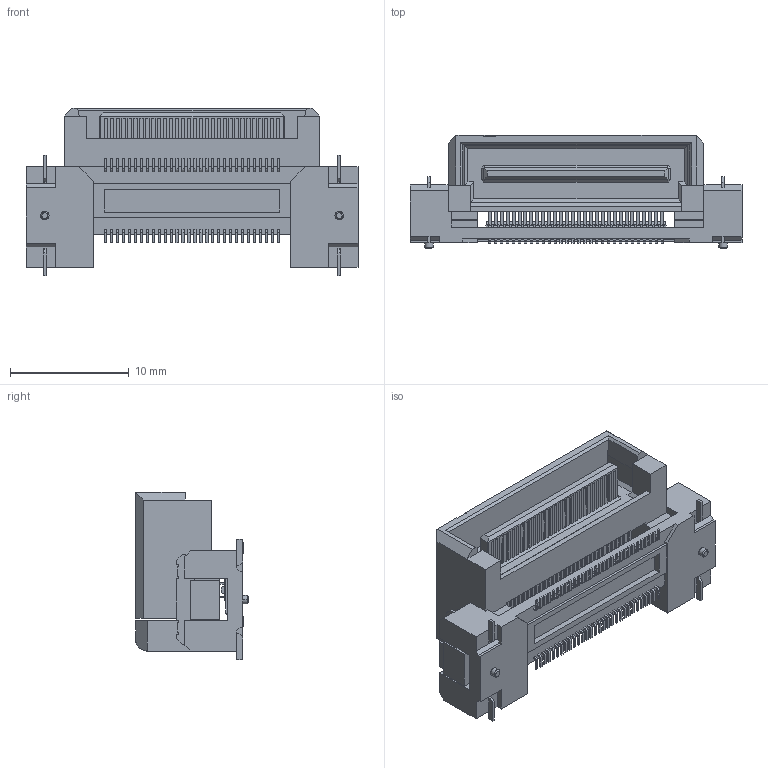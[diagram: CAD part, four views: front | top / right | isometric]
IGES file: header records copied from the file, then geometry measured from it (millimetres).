
Start section: Elysium IGES Interface
Global section: file name: 69HC:\Users\1314\Desktop\temp\回覧用-一時的\DTXX\60\P3D045_DT01-060L.igs; native system: Creo Elements/Direct Modeling 19.0F  14-Feb-2017; preprocessor: Creo Element/Direct IGES_3D V2.2; author: Unknown; organization: Unknown; date: 20170718.112558; units: millimetre
Bounding box: 27.92 x 9.5 x 14.09 mm (x, y, z)
Volume: 1077.6 mm3; surface area: 2520.7 mm2
Topology: 1 solids, 1 shells, 2940 faces, 8188 edges, 5344 vertices
Faces by surface type: bspline 2940
